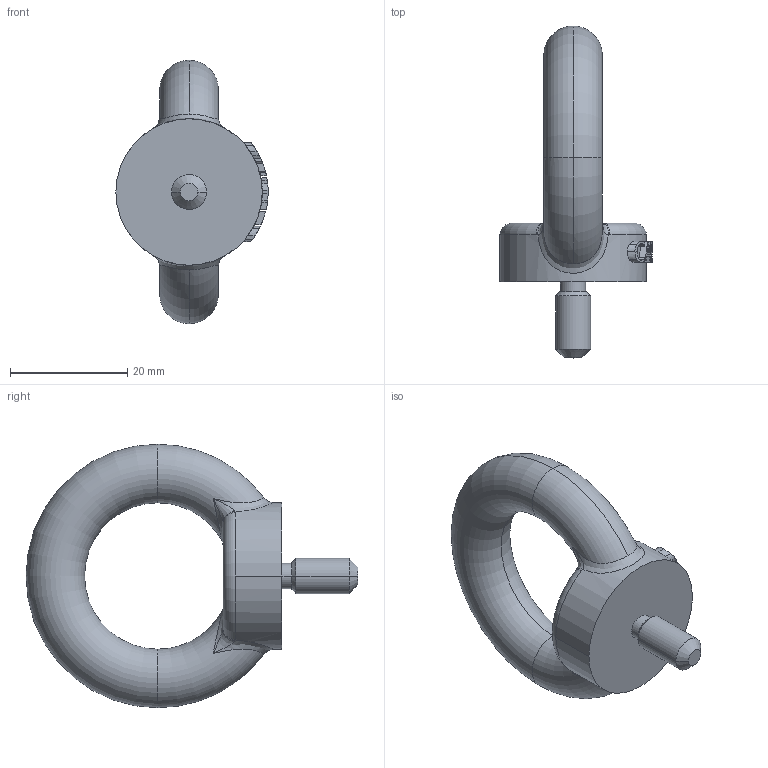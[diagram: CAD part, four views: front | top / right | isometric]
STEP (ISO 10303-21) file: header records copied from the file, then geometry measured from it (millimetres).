
FILE_DESCRIPTION(('STEP AP214'),'1');
FILE_NAME('c80306.stp','2017-03-22T15:02:19',('TraceParts'),('TraceParts S.A.'),'Spatial InterOp 3D',' ',' ');
FILE_SCHEMA(('automotive_design'));
Length unit declared in the file: millimetre
Products named in the file (1): c80306
Bounding box: 26 x 56.7 x 45 mm (x, y, z)
Volume: 11928.1 mm3; surface area: 4587.8 mm2
Topology: 1 solids, 1 shells, 132 faces, 357 edges, 230 vertices
Faces by surface type: plane 54, bspline 51, cylinder 15, torus 8, cone 4
Entity records: 6637 total; most frequent: CARTESIAN_POINT 2501, ORIENTED_EDGE 706, DIRECTION 531, EDGE_CURVE 353, VERTEX_POINT 230, AXIS2_PLACEMENT_3D 198, EDGE_LOOP 141, LINE 135
